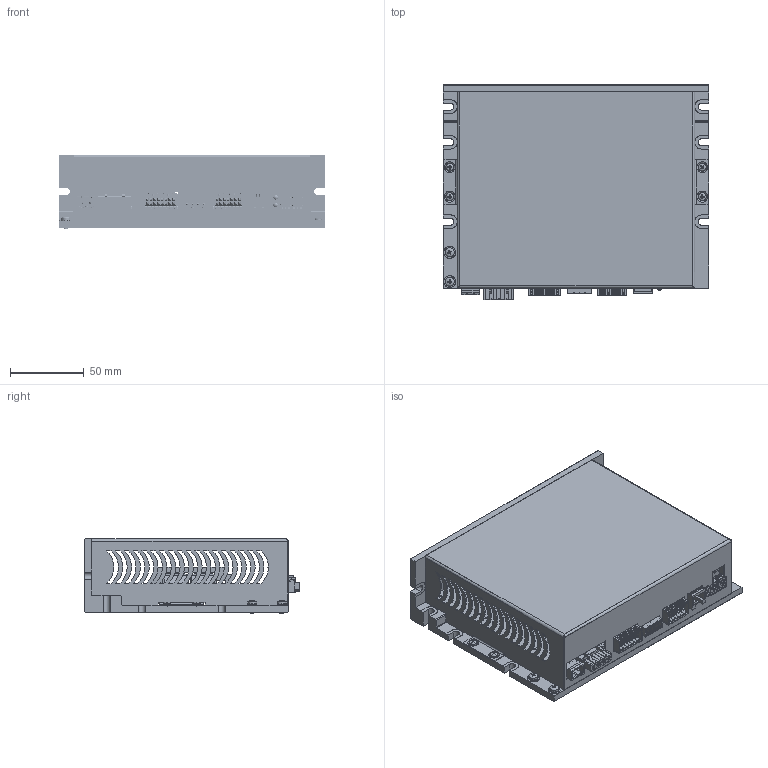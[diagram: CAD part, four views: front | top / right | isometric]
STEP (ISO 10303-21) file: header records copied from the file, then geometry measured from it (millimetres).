
FILE_DESCRIPTION(/* description */ ('Unknown'),/* implementation_level */ '2;1');
FILE_NAME(/* name */ 'SW5A9030L221-20',/* time_stamp */ '2021-05-10T14:54:03+02:00',/* author */ ('Unknown'),/* organization */ ('Unknown'),/* preprocessor_version */ 'ST-DEVELOPER v16.7',/* originating_system */ 'Solid Edge',/* authorisation */ 'Unknown');
FILE_SCHEMA (('AUTOMOTIVE_DESIGN {1 0 10303 214 3 1 1}'));
Products named in the file (44): SW5A9030; estruso_sw5a9030_isd04_inserti; ESTRUSO_SW5A9030_ISD04; inserto_m2_5x12mm; ad_01121_sw5a9030_isd04; dentellata_M3; tcc_M2e5x05; ISD04-00_oa_0; Board; Open CASCADE STEP translator 6.8 1.1.1; CN7; 1782378; mc_1.5-4-g-3.81-p14-thr; CN3; dinkle_0156-1514; CN2; 1731086; CN4; dinkle_0156-1516l; GL400; 5151061f; J400; IMD03DIP-00; DIP100; a6e-4104; SW401; RTE0400V04; SW400; JMP500; 79202-x02lf; CN6; 955012641; Open CASCADE STEP translator 6.8 1.503.1.1; Open CASCADE STEP translator 6.8 1.503.1.2; CN5B; c-5555153-1-c-3d; CN5A; CN1; CA02MHLT5.08B_1757242; MSTBA_2_5-2-G-5_08-72070_ASM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
Assembly tree (61 placements, depth 6):
  SW5A9030
    estruso_sw5a9030_isd04_inserti
      ESTRUSO_SW5A9030_ISD04
      inserto_m2_5x12mm  x3
    ad_01121_sw5a9030_isd04
    dentellata_M3  x2
    tcc_M2e5x05  x12
    ISD04-00_oa_0
      Board
        Open CASCADE STEP translator 6.8 1.1.1
      CN7
        1782378
          mc_1.5-4-g-3.81-p14-thr
      CN3
        dinkle_0156-1514
      CN2
        1731086
      CN4
        dinkle_0156-1516l
      GL400
        5151061f
      J400
        IMD03DIP-00
          Board
          DIP100
            a6e-4104
      SW401
        RTE0400V04
      SW400
        RTE0400V04
      JMP500
        79202-x02lf  x2
      CN6
        955012641
          Open CASCADE STEP translator 6.8 1.503.1.1
          Open CASCADE STEP translator 6.8 1.503.1.2
      CN5B
        c-5555153-1-c-3d
      CN5A
        c-5555153-1-c-3d
      CN1
        CA02MHLT5.08B_1757242
          MSTBA_2_5-2-G-5_08-72070_ASM
            MSTBA_2_5-2-G-5_08-69580
    tcc_M3x06  x2
    Scatola SW5A9030 con ISD04
Bounding box: 180.7 x 146.11 x 50.4 mm (x, y, z)
Volume: 262038.8 mm3; surface area: 217237.8 mm2
Topology: 37 solids, 66 shells, 7496 faces, 20283 edges, 13127 vertices
Faces by surface type: plane 5388, cylinder 1590, bspline 230, cone 124, sphere 84, torus 80
Full cylindrical faces by diameter (mm): 0.406 x8, 0.434 x1, 0.457 x2, 0.762 x44, 0.8 x12, 0.9 x20, 1 x25, 1.016 x34, 1.2 x8, 1.25 x4, 1.27 x2, 1.397 x1, 1.4 x48, 1.5 x4, 1.524 x6, 1.53 x1, 1.55 x1, 1.6 x8, 1.778 x4, 2.013 x9, 2.032 x6, 2.05 x3, 2.459 x2, 2.5 x17, 2.7 x8, 2.75 x2, 2.8 x4, 3 x6, 3.048 x2, 3.2 x4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
Entity records: 226359 total; most frequent: CARTESIAN_POINT 40401, ORIENTED_EDGE 32636, DIRECTION 30753, EDGE_CURVE 16354, LINE 12587, VECTOR 12587, VERTEX_POINT 10823, AXIS2_PLACEMENT_3D 9083
